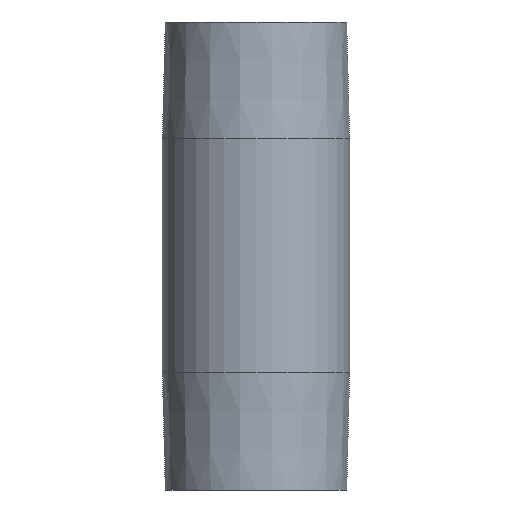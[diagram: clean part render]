
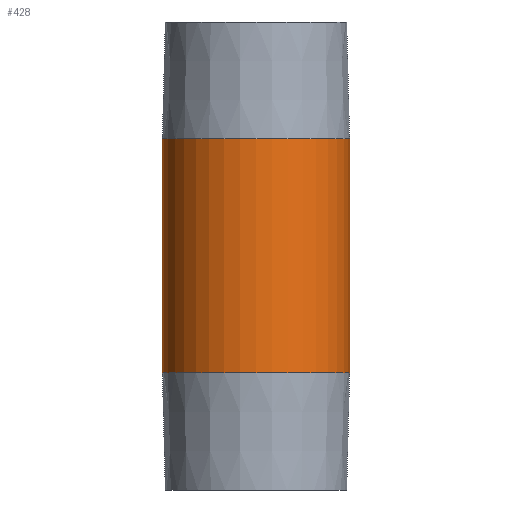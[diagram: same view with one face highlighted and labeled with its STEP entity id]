
A CAD part, front view. The second image highlights one B-rep face of the part: STEP entity #428.
In plain terms, the highlighted cylindrical face has radius 16 mm (diameter 32 mm), a partial arc.
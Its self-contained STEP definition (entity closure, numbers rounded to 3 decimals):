
#27 = DIRECTION ( 'NONE',  ( 0., 0., 1. ) ) ;
#37 = CARTESIAN_POINT ( 'NONE',  ( 0., 0., 40. ) ) ;
#41 = DIRECTION ( 'NONE',  ( -1., 0., 0. ) ) ;
#64 = VERTEX_POINT ( 'NONE', #424 ) ;
#67 = CIRCLE ( 'NONE', #175, 16. ) ;
#69 = DIRECTION ( 'NONE',  ( 0., 0., -1. ) ) ;
#80 = LINE ( 'NONE', #147, #434 ) ;
#88 = FACE_OUTER_BOUND ( 'NONE', #95, .T. ) ;
#93 = CARTESIAN_POINT ( 'NONE',  ( 16., 0., 20. ) ) ;
#95 = EDGE_LOOP ( 'NONE', ( #172, #151, #167, #298 ) ) ;
#118 = AXIS2_PLACEMENT_3D ( 'NONE', #37, #303, #41 ) ;
#144 = DIRECTION ( 'NONE',  ( 1., 0., 0. ) ) ;
#147 = CARTESIAN_POINT ( 'NONE',  ( 16., 0., 40. ) ) ;
#151 = ORIENTED_EDGE ( 'NONE', *, *, #360, .F. ) ;
#153 = CARTESIAN_POINT ( 'NONE',  ( 0., 0., 20. ) ) ;
#158 = AXIS2_PLACEMENT_3D ( 'NONE', #153, #286, #471 ) ;
#166 = CARTESIAN_POINT ( 'NONE',  ( -16., 0., 20. ) ) ;
#167 = ORIENTED_EDGE ( 'NONE', *, *, #341, .T. ) ;
#172 = ORIENTED_EDGE ( 'NONE', *, *, #335, .F. ) ;
#175 = AXIS2_PLACEMENT_3D ( 'NONE', #365, #27, #144 ) ;
#178 = VERTEX_POINT ( 'NONE', #93 ) ;
#216 = CIRCLE ( 'NONE', #158, 16. ) ;
#217 = DIRECTION ( 'NONE',  ( 0., 0., -1. ) ) ;
#246 = VERTEX_POINT ( 'NONE', #361 ) ;
#247 = LINE ( 'NONE', #468, #300 ) ;
#286 = DIRECTION ( 'NONE',  ( 0., 0., 1. ) ) ;
#295 = EDGE_CURVE ( 'NONE', #64, #246, #67, .T. ) ;
#298 = ORIENTED_EDGE ( 'NONE', *, *, #295, .T. ) ;
#300 = VECTOR ( 'NONE', #69, 1000. ) ;
#303 = DIRECTION ( 'NONE',  ( 0., 0., -1. ) ) ;
#311 = CYLINDRICAL_SURFACE ( 'NONE', #118, 16. ) ;
#335 = EDGE_CURVE ( 'NONE', #178, #246, #80, .T. ) ;
#341 = EDGE_CURVE ( 'NONE', #439, #64, #247, .T. ) ;
#360 = EDGE_CURVE ( 'NONE', #439, #178, #216, .T. ) ;
#361 = CARTESIAN_POINT ( 'NONE',  ( 16., 0., -20. ) ) ;
#365 = CARTESIAN_POINT ( 'NONE',  ( 0., 0., -20. ) ) ;
#424 = CARTESIAN_POINT ( 'NONE',  ( -16., 0., -20. ) ) ;
#428 = ADVANCED_FACE ( 'NONE', ( #88 ), #311, .T. ) ;
#434 = VECTOR ( 'NONE', #217, 1000. ) ;
#439 = VERTEX_POINT ( 'NONE', #166 ) ;
#468 = CARTESIAN_POINT ( 'NONE',  ( -16., 0., 40. ) ) ;
#471 = DIRECTION ( 'NONE',  ( 1., 0., 0. ) ) ;
